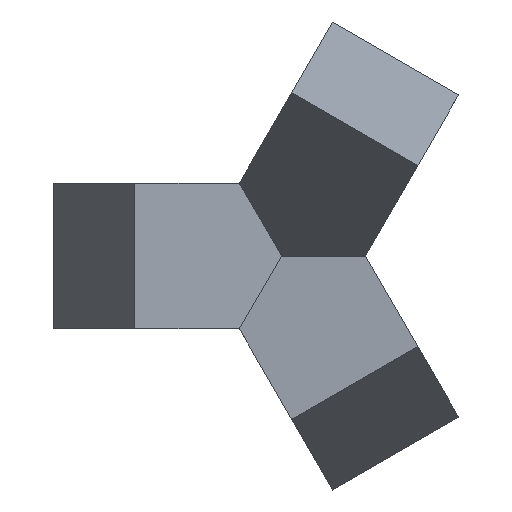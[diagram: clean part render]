
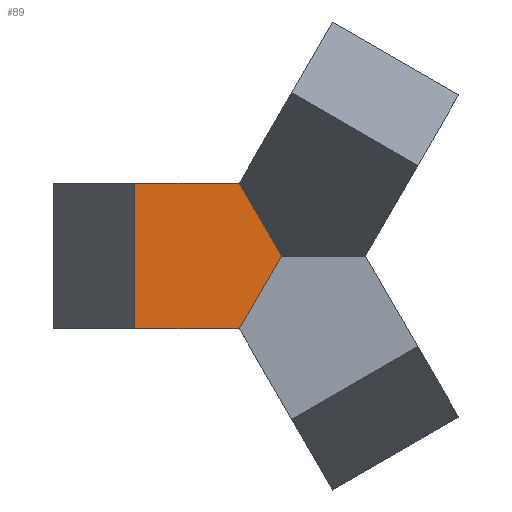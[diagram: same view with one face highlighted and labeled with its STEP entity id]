
A CAD part, left-side view. The second image highlights one B-rep face of the part: STEP entity #89.
In plain terms, the highlighted planar face has unit normal (-0.63, -0.777, 0).
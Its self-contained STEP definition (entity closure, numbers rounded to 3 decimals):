
#21 = EDGE_CURVE('',#22,#24,#26,.T.);
#22 = VERTEX_POINT('',#23);
#23 = CARTESIAN_POINT('',(-42.177,9.058,4.5));
#24 = VERTEX_POINT('',#25);
#25 = CARTESIAN_POINT('',(-34.206,2.598,4.5));
#26 = LINE('',#27,#28);
#27 = CARTESIAN_POINT('',(-42.177,9.058,4.5));
#28 = VECTOR('',#29,1.);
#29 = DIRECTION('',(0.777,-0.63,0.));
#89 = ADVANCED_FACE('',(#90),#123,.F.);
#90 = FACE_BOUND('',#91,.F.);
#91 = EDGE_LOOP('',(#92,#102,#108,#109,#117));
#92 = ORIENTED_EDGE('',*,*,#93,.F.);
#93 = EDGE_CURVE('',#94,#96,#98,.T.);
#94 = VERTEX_POINT('',#95);
#95 = CARTESIAN_POINT('',(-42.177,9.058,-4.5));
#96 = VERTEX_POINT('',#97);
#97 = CARTESIAN_POINT('',(-34.206,2.598,-4.5));
#98 = LINE('',#99,#100);
#99 = CARTESIAN_POINT('',(-42.177,9.058,-4.5));
#100 = VECTOR('',#101,1.);
#101 = DIRECTION('',(0.777,-0.63,0.));
#102 = ORIENTED_EDGE('',*,*,#103,.T.);
#103 = EDGE_CURVE('',#94,#22,#104,.T.);
#104 = LINE('',#105,#106);
#105 = CARTESIAN_POINT('',(-42.177,9.058,-4.5));
#106 = VECTOR('',#107,1.);
#107 = DIRECTION('',(0.,0.,1.));
#108 = ORIENTED_EDGE('',*,*,#21,.T.);
#109 = ORIENTED_EDGE('',*,*,#110,.T.);
#110 = EDGE_CURVE('',#24,#111,#113,.T.);
#111 = VERTEX_POINT('',#112);
#112 = CARTESIAN_POINT('',(-31.,0.,0.));
#113 = LINE('',#114,#115);
#114 = CARTESIAN_POINT('',(-36.105,4.138,7.167
    ));
#115 = VECTOR('',#116,1.);
#116 = DIRECTION('',(0.525,-0.426,-0.737));
#117 = ORIENTED_EDGE('',*,*,#118,.T.);
#118 = EDGE_CURVE('',#111,#96,#119,.T.);
#119 = LINE('',#120,#121);
#120 = CARTESIAN_POINT('',(-36.105,4.138,
    -7.167));
#121 = VECTOR('',#122,1.);
#122 = DIRECTION('',(-0.525,0.426,-0.737));
#123 = PLANE('',#124);
#124 = AXIS2_PLACEMENT_3D('',#125,#126,#127);
#125 = CARTESIAN_POINT('',(-42.177,9.058,-4.5));
#126 = DIRECTION('',(0.63,0.777,0.));
#127 = DIRECTION('',(0.777,-0.63,0.));
